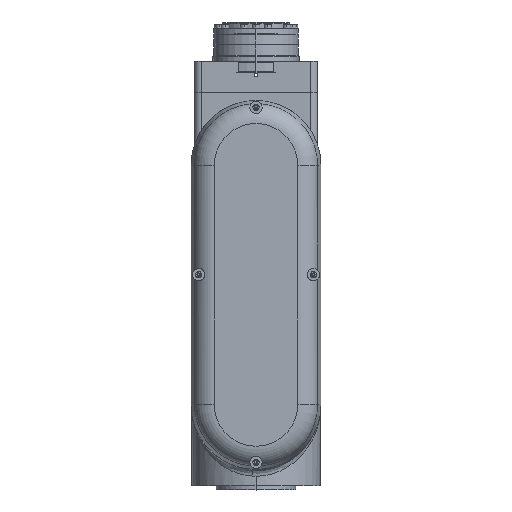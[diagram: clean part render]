
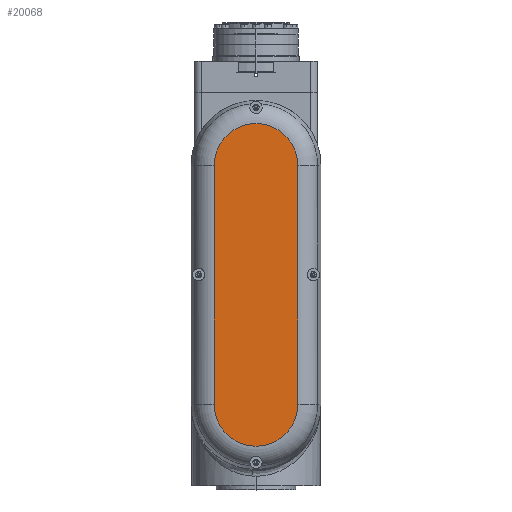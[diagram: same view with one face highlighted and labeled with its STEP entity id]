
A CAD part, top view. The second image highlights one B-rep face of the part: STEP entity #20068.
In plain terms, the highlighted planar face has unit normal (0, 0, 1).
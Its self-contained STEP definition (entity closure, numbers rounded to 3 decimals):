
#557 = VECTOR ( 'NONE', #5655, 1000. ) ;
#1302 = DIRECTION ( 'NONE',  ( 0., 0., 1. ) ) ;
#1840 = DIRECTION ( 'NONE',  ( -1., 0., 0. ) ) ;
#2301 = AXIS2_PLACEMENT_3D ( 'NONE', #20866, #1302, #9985 ) ;
#4508 = EDGE_CURVE ( 'NONE', #26449, #8011, #24779, .T. ) ;
#4777 = FACE_OUTER_BOUND ( 'NONE', #17030, .T. ) ;
#5655 = DIRECTION ( 'NONE',  ( 0., 1., 0. ) ) ;
#5658 = EDGE_CURVE ( 'NONE', #8011, #6874, #19194, .T. ) ;
#6161 = CARTESIAN_POINT ( 'NONE',  ( 2.961, 218.871, 102.665 ) ) ;
#6874 = VERTEX_POINT ( 'NONE', #21868 ) ;
#8011 = VERTEX_POINT ( 'NONE', #20975 ) ;
#8294 = DIRECTION ( 'NONE',  ( 0., -1., 0. ) ) ;
#9328 = CARTESIAN_POINT ( 'NONE',  ( -27.67, 218.871, 102.665 ) ) ;
#9985 = DIRECTION ( 'NONE',  ( -1., 0., 0. ) ) ;
#12438 = AXIS2_PLACEMENT_3D ( 'NONE', #12691, #21424, #1840 ) ;
#12691 = CARTESIAN_POINT ( 'NONE',  ( -27.67, 218.871, 102.665 ) ) ;
#13489 = PLANE ( 'NONE',  #17162 ) ;
#14209 = EDGE_CURVE ( 'NONE', #6874, #17744, #14628, .T. ) ;
#14628 = CIRCLE ( 'NONE', #2301, 30.631 ) ;
#16520 = LINE ( 'NONE', #25203, #557 ) ;
#17030 = EDGE_LOOP ( 'NONE', ( #23221, #21053, #20187, #23039 ) ) ;
#17162 = AXIS2_PLACEMENT_3D ( 'NONE', #9328, #18079, #26775 ) ;
#17744 = VERTEX_POINT ( 'NONE', #21940 ) ;
#18079 = DIRECTION ( 'NONE',  ( 0., 0., -1. ) ) ;
#19157 = VECTOR ( 'NONE', #8294, 1000. ) ;
#19194 = LINE ( 'NONE', #27842, #19157 ) ;
#20068 = ADVANCED_FACE ( 'NONE', ( #4777 ), #13489, .F. ) ;
#20187 = ORIENTED_EDGE ( 'NONE', *, *, #5658, .T. ) ;
#20866 = CARTESIAN_POINT ( 'NONE',  ( -27.67, 43.871, 102.665 ) ) ;
#20975 = CARTESIAN_POINT ( 'NONE',  ( -58.301, 218.871, 102.665 ) ) ;
#21053 = ORIENTED_EDGE ( 'NONE', *, *, #4508, .T. ) ;
#21424 = DIRECTION ( 'NONE',  ( 0., 0., 1. ) ) ;
#21868 = CARTESIAN_POINT ( 'NONE',  ( -58.301, 43.871, 102.665 ) ) ;
#21940 = CARTESIAN_POINT ( 'NONE',  ( 2.961, 43.871, 102.665 ) ) ;
#23039 = ORIENTED_EDGE ( 'NONE', *, *, #14209, .T. ) ;
#23221 = ORIENTED_EDGE ( 'NONE', *, *, #26011, .T. ) ;
#24779 = CIRCLE ( 'NONE', #12438, 30.631 ) ;
#25203 = CARTESIAN_POINT ( 'NONE',  ( 2.961, 218.871, 102.665 ) ) ;
#26011 = EDGE_CURVE ( 'NONE', #17744, #26449, #16520, .T. ) ;
#26449 = VERTEX_POINT ( 'NONE', #6161 ) ;
#26775 = DIRECTION ( 'NONE',  ( -1., 0., 0. ) ) ;
#27842 = CARTESIAN_POINT ( 'NONE',  ( -58.301, 43.871, 102.665 ) ) ;
